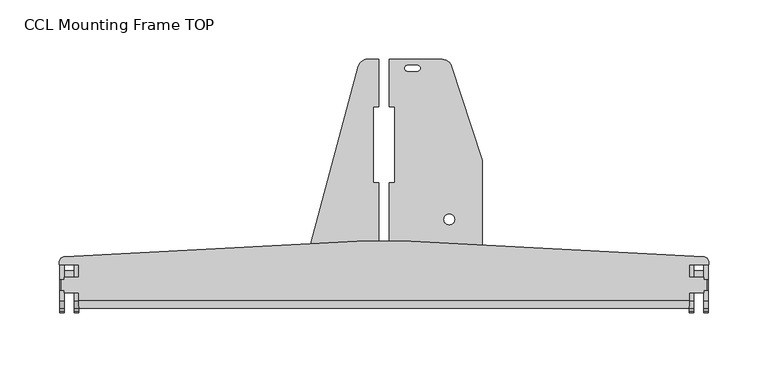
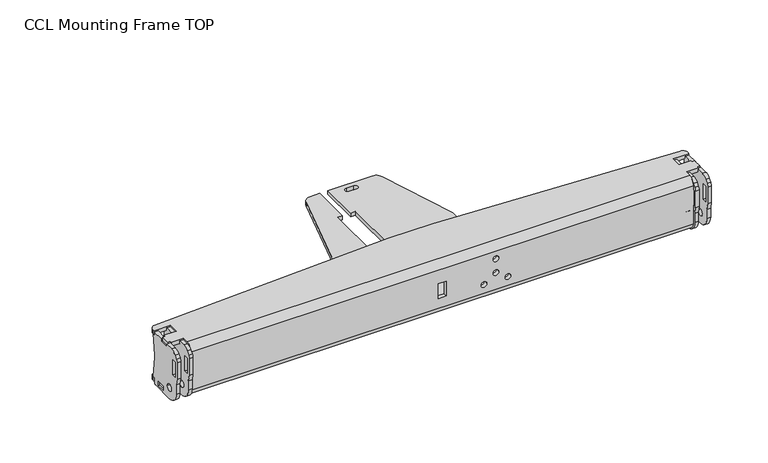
"""IFC4 building model written with IfcOpenShell, lengths in millimetres: proxy geometry, d&b CL-Series CCL Mounting Frame TOP : CCL Mounting Frame TOP."""

from ifc_helpers import new_model, si_unit, point, frame, frame_2d, origin, place, context, project, spatial, polyline, circle_curve, trimmed, segment, composite_curve, outline, extrude, faceted_brep, source, transform, mapped, element, save
from ifc_brep_helpers import plane_surface, cylinder_surface, revolved_surface, advanced_brep


def ccl_mounting_frame_top_87f3c3ac(model_context):
    return source(origin(), model_context, "Body", "SolidModel", [
        extrude(outline(composite_curve([segment(polyline([(-2.0, 9.5), (-2.0, 19.5), (-3.5, 26.5), (-3.5, 44.5)]), True, "CONTINUOUS"), segment(trimmed(circle_curve(frame_2d((1.5, 44.5)), 5.0), [point((-3.5, 44.5))], [point((-2.3302222, 47.713938))], False, "CARTESIAN"), True, "CONTINUOUS"), segment(polyline([(-2.3302222, 47.713938), (0.126966, 50.6423009)]), True, "CONTINUOUS"), segment(trimmed(circle_curve(frame_2d((6.2553215, 45.5)), 8.0), [point((0.126966, 50.6423009))], [point((6.2553215, 53.5))], False, "CARTESIAN"), True, "CONTINUOUS"), segment(polyline([(6.2553215, 53.5), (13.25, 53.5), (13.25, 50.75), (26.25, 50.75), (26.25, 53.5), (36.5, 53.5), (36.5, 50.75), (41.5, 50.75), (39.1442176, 28.3362277)]), True, "CONTINUOUS"), segment(trimmed(circle_curve(frame_2d((47.1003928, 27.5)), 8.0), [point((39.1442176, 28.3362277))], [point((39.1442176, 26.6637723))], True, "CARTESIAN"), True, "CONTINUOUS"), segment(polyline([(39.1442176, 26.6637723), (41.5, 4.25), (36.5, 4.25), (36.5, -0.5)]), True, "CONTINUOUS"), segment(trimmed(circle_curve(frame_2d((34.5, -0.5)), 2.0), [point((36.5, -0.5))], [point((34.5, -2.5))], False, "CARTESIAN"), True, "CONTINUOUS"), segment(polyline([(34.5, -2.5), (10.0, -2.5)]), True, "CONTINUOUS"), segment(trimmed(circle_curve(frame_2d((10.0, 9.5)), 12.0), [point((10.0, -2.5))], [point((-2.0, 9.5))], False, "CARTESIAN"), True, "CONTINUOUS")], self_intersect=False), holes=[polyline([(4.25, 43.25), (-0.25, 43.25), (-0.25, 26.75), (4.25, 26.75), (4.25, 43.25)]), composite_curve([segment(trimmed(circle_curve(frame_2d((10.0, 9.5)), 3.65), [point((6.35, 9.5))], [point((13.65, 9.5))], True, "CARTESIAN"), True, "CONTINUOUS"), segment(trimmed(circle_curve(frame_2d((10.0, 9.5)), 3.65), [point((13.65, 9.5))], [point((6.35, 9.5))], True, "CARTESIAN"), True, "CONTINUOUS")], self_intersect=False), polyline([(21.25, 4.25), (21.25, -0.5), (29.75, -0.5), (29.75, 4.25), (21.25, 4.25)])]), frame((-261.0, 0.0, 0.0), z_axis=(1.0, 0.0, 0.0), x_axis=(0.0, 1.0, 0.0)), (0.0, 0.0, 1.0), 3.75),
        extrude(outline(composite_curve([segment(polyline([(-2.0, 9.5), (-2.0, 19.5), (-3.5, 26.5), (-3.5, 44.5)]), True, "CONTINUOUS"), segment(trimmed(circle_curve(frame_2d((1.5, 44.5)), 5.0), [point((-3.5, 44.5))], [point((-2.3302222, 47.713938))], False, "CARTESIAN"), True, "CONTINUOUS"), segment(polyline([(-2.3302222, 47.713938), (0.126966, 50.6423009)]), True, "CONTINUOUS"), segment(trimmed(circle_curve(frame_2d((6.2553215, 45.5)), 8.0), [point((0.126966, 50.6423009))], [point((6.2553215, 53.5))], False, "CARTESIAN"), True, "CONTINUOUS"), segment(polyline([(6.2553215, 53.5), (13.25, 53.5), (13.25, 50.75), (26.25, 50.75), (26.25, 53.5), (36.5, 53.5), (36.5, 50.75), (41.5, 50.75), (39.1442176, 28.3362277)]), True, "CONTINUOUS"), segment(trimmed(circle_curve(frame_2d((47.1003928, 27.5)), 8.0), [point((39.1442176, 28.3362277))], [point((39.1442176, 26.6637723))], True, "CARTESIAN"), True, "CONTINUOUS"), segment(polyline([(39.1442176, 26.6637723), (41.5, 4.25), (36.5, 4.25), (36.5, -0.5)]), True, "CONTINUOUS"), segment(trimmed(circle_curve(frame_2d((34.5, -0.5)), 2.0), [point((36.5, -0.5))], [point((34.5, -2.5))], False, "CARTESIAN"), True, "CONTINUOUS"), segment(polyline([(34.5, -2.5), (10.0, -2.5)]), True, "CONTINUOUS"), segment(trimmed(circle_curve(frame_2d((10.0, 9.5)), 12.0), [point((10.0, -2.5))], [point((-2.0, 9.5))], False, "CARTESIAN"), True, "CONTINUOUS")], self_intersect=False), holes=[polyline([(4.25, 43.25), (-0.25, 43.25), (-0.25, 26.75), (4.25, 26.75), (4.25, 43.25)]), composite_curve([segment(trimmed(circle_curve(frame_2d((10.0, 9.5)), 3.65), [point((6.35, 9.5))], [point((13.65, 9.5))], True, "CARTESIAN"), True, "CONTINUOUS"), segment(trimmed(circle_curve(frame_2d((10.0, 9.5)), 3.65), [point((13.65, 9.5))], [point((6.35, 9.5))], True, "CARTESIAN"), True, "CONTINUOUS")], self_intersect=False), polyline([(21.25, 4.25), (21.25, -0.5), (29.75, -0.5), (29.75, 4.25), (21.25, 4.25)])]), frame((257.25, 0.0, 0.0), z_axis=(1.0, 0.0, 0.0), x_axis=(0.0, 1.0, 0.0)), (0.0, 0.0, 1.0), 3.75),
        extrude(outline(composite_curve([segment(polyline([(-2.0, 9.5), (-2.0, 19.5), (-3.5, 26.5), (-3.5, 44.5)]), True, "CONTINUOUS"), segment(trimmed(circle_curve(frame_2d((1.5, 44.5)), 5.0), [point((-3.5, 44.5))], [point((-2.3302222, 47.713938))], False, "CARTESIAN"), True, "CONTINUOUS"), segment(polyline([(-2.3302222, 47.713938), (0.126966, 50.6423009)]), True, "CONTINUOUS"), segment(trimmed(circle_curve(frame_2d((6.2553215, 45.5)), 8.0), [point((0.126966, 50.6423009))], [point((6.2553215, 53.5))], False, "CARTESIAN"), True, "CONTINUOUS"), segment(polyline([(6.2553215, 53.5), (15.0, 53.5), (15.0, 50.75), (24.5, 50.75), (24.5, 53.5), (36.5, 53.5), (36.5, 50.75), (38.5, 50.75), (36.1442176, 28.3362277)]), True, "CONTINUOUS"), segment(trimmed(circle_curve(frame_2d((44.1003928, 27.5)), 8.0), [point((36.1442176, 28.3362277))], [point((36.1442176, 26.6637723))], True, "CARTESIAN"), True, "CONTINUOUS"), segment(polyline([(36.1442176, 26.6637723), (38.5, 4.25), (36.5, 4.25), (36.5, -0.5)]), True, "CONTINUOUS"), segment(trimmed(circle_curve(frame_2d((34.5, -0.5)), 2.0), [point((36.5, -0.5))], [point((34.5, -2.5))], False, "CARTESIAN"), True, "CONTINUOUS"), segment(polyline([(34.5, -2.5), (10.0, -2.5)]), True, "CONTINUOUS"), segment(trimmed(circle_curve(frame_2d((10.0, 9.5)), 12.0), [point((10.0, -2.5))], [point((-2.0, 9.5))], False, "CARTESIAN"), True, "CONTINUOUS")], self_intersect=False), holes=[polyline([(4.25, 43.25), (-0.25, 43.25), (-0.25, 26.75), (4.25, 26.75), (4.25, 43.25)]), composite_curve([segment(trimmed(circle_curve(frame_2d((10.0, 9.5)), 3.65), [point((6.35, 9.5))], [point((13.65, 9.5))], True, "CARTESIAN"), True, "CONTINUOUS"), segment(trimmed(circle_curve(frame_2d((10.0, 9.5)), 3.65), [point((13.65, 9.5))], [point((6.35, 9.5))], True, "CARTESIAN"), True, "CONTINUOUS")], self_intersect=False), polyline([(21.25, 4.25), (21.25, -0.5), (29.75, -0.5), (29.75, 4.25), (21.25, 4.25)])]), frame((-273.5, 0.0, 0.0), z_axis=(1.0, 0.0, 0.0), x_axis=(0.0, 1.0, 0.0)), (0.0, 0.0, 1.0), 3.75),
        extrude(outline(composite_curve([segment(polyline([(-2.0, 9.5), (-2.0, 19.5), (-3.5, 26.5), (-3.5, 44.5)]), True, "CONTINUOUS"), segment(trimmed(circle_curve(frame_2d((1.5, 44.5)), 5.0), [point((-3.5, 44.5))], [point((-2.3302222, 47.713938))], False, "CARTESIAN"), True, "CONTINUOUS"), segment(polyline([(-2.3302222, 47.713938), (0.126966, 50.6423009)]), True, "CONTINUOUS"), segment(trimmed(circle_curve(frame_2d((6.2553215, 45.5)), 8.0), [point((0.126966, 50.6423009))], [point((6.2553215, 53.5))], False, "CARTESIAN"), True, "CONTINUOUS"), segment(polyline([(6.2553215, 53.5), (15.0, 53.5), (15.0, 50.75), (24.5, 50.75), (24.5, 53.5), (36.5, 53.5), (36.5, 50.75), (38.5, 50.75), (36.1442176, 28.3362277)]), True, "CONTINUOUS"), segment(trimmed(circle_curve(frame_2d((44.1003928, 27.5)), 8.0), [point((36.1442176, 28.3362277))], [point((36.1442176, 26.6637723))], True, "CARTESIAN"), True, "CONTINUOUS"), segment(polyline([(36.1442176, 26.6637723), (38.5, 4.25), (36.5, 4.25), (36.5, -0.5)]), True, "CONTINUOUS"), segment(trimmed(circle_curve(frame_2d((34.5, -0.5)), 2.0), [point((36.5, -0.5))], [point((34.5, -2.5))], False, "CARTESIAN"), True, "CONTINUOUS"), segment(polyline([(34.5, -2.5), (10.0, -2.5)]), True, "CONTINUOUS"), segment(trimmed(circle_curve(frame_2d((10.0, 9.5)), 12.0), [point((10.0, -2.5))], [point((-2.0, 9.5))], False, "CARTESIAN"), True, "CONTINUOUS")], self_intersect=False), holes=[polyline([(4.25, 43.25), (-0.25, 43.25), (-0.25, 26.75), (4.25, 26.75), (4.25, 43.25)]), composite_curve([segment(trimmed(circle_curve(frame_2d((10.0, 9.5)), 3.65), [point((6.35, 9.5))], [point((13.65, 9.5))], True, "CARTESIAN"), True, "CONTINUOUS"), segment(trimmed(circle_curve(frame_2d((10.0, 9.5)), 3.65), [point((13.65, 9.5))], [point((6.35, 9.5))], True, "CARTESIAN"), True, "CONTINUOUS")], self_intersect=False), polyline([(21.25, 4.25), (21.25, -0.5), (29.75, -0.5), (29.75, 4.25), (21.25, 4.25)])]), frame((269.75, 0.0, 0.0), z_axis=(1.0, 0.0, 0.0), x_axis=(0.0, 1.0, 0.0)), (0.0, 0.0, 1.0), 3.75),
        advanced_brep(
        [(257.25, 7.0, 55.0), (257.25, 0.0, 48.0), (257.25, 0.0, 7.0), (257.25, 7.0, 0.0), (257.25, 36.6, 0.0), (257.25, 36.6, 4.0), (257.25, 7.0, 4.0), (257.25, 4.0, 7.0), (257.25, 4.0, 48.0), (257.25, 7.0, 51.0), (257.25, 13.25, 51.0), (257.25, 13.25, 55.0), (257.25, 26.25, 51.0), (257.25, 36.6, 51.0), (257.25, 36.6, 55.0), (257.25, 26.25, 55.0), (-257.25, 7.0, 51.0), (-257.25, 4.0, 48.0), (-257.25, 4.0, 7.0), (-257.25, 7.0, 4.0), (-257.25, 36.6, 4.0), (-257.25, 36.6, 0.0), (-257.25, 7.0, 0.0), (-257.25, 0.0, 7.0), (-257.25, 0.0, 48.0), (-257.25, 7.0, 55.0), (-257.25, 13.25, 55.0), (-257.25, 13.25, 51.0), (-257.25, 26.25, 55.0), (-257.25, 36.6, 55.0), (-257.25, 36.6, 51.0), (-257.25, 26.25, 51.0), (58.0, 0.0, 39.9561632), (52.0, 0.0, 39.9561632), (45.7127193, 0.0, 16.3525166), (39.7127193, 0.0, 16.3525166), (70.2872807, 0.0, 16.3525166), (64.2872807, 0.0, 16.3525166), (58.0, 0.0, 24.9561632), (52.0, 0.0, 24.9561632), (4.25, 0.0, 33.5), (4.25, 0.0, 17.5), (-4.25, 0.0, 17.5), (-4.25, 0.0, 33.5), (-273.75, 36.6, 0.0), (-273.75, 38.6, 0.0), (-269.0116798, 43.5931477, 0.0), (-61.67706, 54.4590947, 0.0), (-21.5943708, 204.0497272, 0.0), (-13.8398243, 210.0, 0.0), (-4.25, 210.0, 0.0), (-4.25, 170.0, 0.0), (-9.25, 170.0, 0.0), (-9.25, 105.75, 0.0), (-4.25, 105.75, 0.0), (-4.25, 56.5, 0.0), (4.25, 56.5, 0.0), (4.25, 105.75, 0.0), (9.25, 105.75, 0.0), (9.25, 170.0, 0.0), (4.25, 170.0, 0.0), (4.25, 210.0, 0.0), (49.212422, 210.0, 0.0), (56.8107802, 204.5029886, 0.0), (82.5983582, 126.2192696, 0.0), (83.0, 123.716281, 0.0), (83.0, 53.3416067, 0.0), (269.0116798, 43.5931477, 0.0), (273.75, 38.6, 0.0), (273.75, 36.6, 0.0), (28.0, 205.0, 0.0), (20.0, 205.0, 0.0), (20.0, 200.0, 0.0), (28.0, 200.0, 0.0), (59.4701963, 75.0167621, 0.0), (50.5298037, 75.0167621, 0.0), (-4.25, 56.5, 4.0), (4.25, 56.5, 4.0), (273.75, 36.6, 4.0), (273.75, 38.6, 4.0), (269.0116798, 43.5931477, 4.0), (83.0, 53.3416067, 4.0), (83.0, 123.716281, 4.0), (82.5983582, 126.2192696, 4.0), (56.8107802, 204.5029886, 4.0), (49.212422, 210.0, 4.0), (4.25, 210.0, 4.0), (4.25, 170.0, 4.0), (9.25, 170.0, 4.0), (9.25, 105.75, 4.0), (4.25, 105.75, 4.0), (-4.25, 105.75, 4.0), (-9.25, 105.75, 4.0), (-9.25, 170.0, 4.0), (-4.25, 170.0, 4.0), (-4.25, 210.0, 4.0), (-13.8398243, 210.0, 4.0), (-21.5943708, 204.0497272, 4.0), (-61.67706, 54.4590947, 4.0), (-269.0116798, 43.5931477, 4.0), (-273.75, 38.6, 4.0), (-273.75, 36.6, 4.0), (28.0, 205.0, 4.0), (28.0, 200.0, 4.0), (20.0, 200.0, 4.0), (20.0, 205.0, 4.0), (59.4701963, 75.0167621, 4.0), (50.5298037, 75.0167621, 4.0), (52.0, 4.0, 39.9561632), (58.0, 4.0, 39.9561632), (39.7127193, 4.0, 16.3525166), (45.7127193, 4.0, 16.3525166), (64.2872807, 4.0, 16.3525166), (70.2872807, 4.0, 16.3525166), (52.0, 4.0, 24.9561632), (58.0, 4.0, 24.9561632), (4.25, 4.0, 17.5), (4.25, 4.0, 33.5), (-4.25, 4.0, 33.5), (-4.25, 4.0, 17.5), (-269.75, 13.25, 51.0), (-269.75, 15.25, 51.0), (-272.25, 15.25, 51.0), (-272.25, 24.25, 51.0), (-269.75, 24.25, 51.0), (-269.75, 26.25, 51.0), (-273.75, 36.6, 51.0), (-273.75, 38.8548275, 51.0), (-269.0116798, 43.5931477, 51.0), (-22.7342663, 56.5, 51.0), (22.7342663, 56.5, 51.0), (269.0116798, 43.5931477, 51.0), (273.75, 38.8548275, 51.0), (273.75, 36.6, 51.0), (269.75, 26.25, 51.0), (269.75, 24.25, 51.0), (272.25, 24.25, 51.0), (272.25, 15.25, 51.0), (269.75, 15.25, 51.0), (269.75, 13.25, 51.0), (-22.7342663, 56.5, 55.0), (22.7342663, 56.5, 55.0), (269.75, 13.25, 55.0), (269.75, 15.25, 55.0), (272.25, 15.25, 55.0), (272.25, 24.25, 55.0), (269.75, 24.25, 55.0), (269.75, 26.25, 55.0), (273.75, 36.6, 55.0), (273.75, 38.8548275, 55.0), (269.0116798, 43.5931477, 55.0), (-269.0116798, 43.5931477, 55.0), (-273.75, 38.8548275, 55.0), (-273.75, 36.6, 55.0), (-269.75, 26.25, 55.0), (-269.75, 24.25, 55.0), (-272.25, 24.25, 55.0), (-272.25, 15.25, 55.0), (-269.75, 15.25, 55.0), (-269.75, 13.25, 55.0)],
        [
            (0, 1, circle_curve(frame((257.25, 7.0, 48.0), z_axis=(1.0, 0.0, 0.0), x_axis=(0.0, 1.0, 0.0)), 7.0)),
            (1, 2),
            (2, 3, circle_curve(frame((257.25, 7.0, 7.0), z_axis=(1.0, 0.0, 0.0), x_axis=(0.0, 1.0, 0.0)), 7.0)),
            (3, 4),
            (4, 5),
            (5, 6),
            (6, 7, circle_curve(frame((257.25, 7.0, 7.0), z_axis=(-1.0, 0.0, 0.0), x_axis=(0.0, 1.0, 0.0)), 3.0)),
            (7, 8),
            (8, 9, circle_curve(frame((257.25, 7.0, 48.0), z_axis=(-1.0, 0.0, 0.0), x_axis=(0.0, 1.0, 0.0)), 3.0)),
            (9, 10),
            (10, 11),
            (11, 0),
            (12, 13),
            (13, 14),
            (14, 15),
            (15, 12),
            (16, 17, circle_curve(frame((-257.25, 7.0, 48.0), z_axis=(1.0, 0.0, 0.0), x_axis=(0.0, 1.0, 0.0)), 3.0)),
            (17, 18),
            (18, 19, circle_curve(frame((-257.25, 7.0, 7.0), z_axis=(1.0, 0.0, 0.0), x_axis=(0.0, 1.0, 0.0)), 3.0)),
            (19, 20),
            (20, 21),
            (21, 22),
            (22, 23, circle_curve(frame((-257.25, 7.0, 7.0), z_axis=(-1.0, 0.0, 0.0), x_axis=(0.0, 1.0, 0.0)), 7.0)),
            (23, 24),
            (24, 25, circle_curve(frame((-257.25, 7.0, 48.0), z_axis=(-1.0, 0.0, 0.0), x_axis=(0.0, 1.0, 0.0)), 7.0)),
            (25, 26),
            (26, 27),
            (27, 16),
            (28, 29),
            (29, 30),
            (30, 31),
            (31, 28),
            (1, 24),
            (23, 2),
            (32, 33, circle_curve(frame((55.0, 0.0, 39.9561632), z_axis=(0.0, 1.0, 0.0), x_axis=(1.0, 0.0, 0.0)), 3.0)),
            (33, 32, circle_curve(frame((55.0, 0.0, 39.9561632), z_axis=(0.0, 1.0, 0.0), x_axis=(1.0, 0.0, 0.0)), 3.0)),
            (34, 35, circle_curve(frame((42.7127193, 0.0, 16.3525166), z_axis=(0.0, 1.0, 0.0), x_axis=(1.0, 0.0, 0.0)), 3.0)),
            (35, 34, circle_curve(frame((42.7127193, 0.0, 16.3525166), z_axis=(0.0, 1.0, 0.0), x_axis=(1.0, 0.0, 0.0)), 3.0)),
            (36, 37, circle_curve(frame((67.2872807, 0.0, 16.3525166), z_axis=(0.0, 1.0, 0.0), x_axis=(1.0, 0.0, 0.0)), 3.0)),
            (37, 36, circle_curve(frame((67.2872807, 0.0, 16.3525166), z_axis=(0.0, 1.0, 0.0), x_axis=(1.0, 0.0, 0.0)), 3.0)),
            (38, 39, circle_curve(frame((55.0, 0.0, 24.9561632), z_axis=(0.0, 1.0, 0.0), x_axis=(1.0, 0.0, 0.0)), 3.0)),
            (39, 38, circle_curve(frame((55.0, 0.0, 24.9561632), z_axis=(0.0, 1.0, 0.0), x_axis=(1.0, 0.0, 0.0)), 3.0)),
            (40, 41),
            (41, 42),
            (42, 43),
            (43, 40),
            (22, 3),
            (21, 44),
            (44, 45),
            (45, 46, circle_curve(frame((-268.75, 38.6, 0.0), z_axis=(0.0, 0.0, -1.0), x_axis=(0.0, -1.0, 0.0)), 5.0)),
            (46, 47),
            (47, 48),
            (48, 49, circle_curve(frame((-13.8398243, 201.9719027, 0.0), z_axis=(0.0, 0.0, -1.0), x_axis=(-1.0, 0.0, 0.0)), 8.0280973)),
            (49, 50),
            (50, 51),
            (51, 52),
            (52, 53),
            (53, 54),
            (54, 55),
            (55, 56),
            (56, 57),
            (57, 58),
            (58, 59),
            (59, 60),
            (60, 61),
            (61, 62),
            (62, 63, circle_curve(frame((49.212422, 202.0, 0.0), z_axis=(0.0, 0.0, -1.0), x_axis=(-1.0, 0.0, 0.0)), 8.0)),
            (63, 64),
            (64, 65, circle_curve(frame((75.0, 123.716281, 0.0), z_axis=(0.0, 0.0, -1.0), x_axis=(-1.0, 0.0, 0.0)), 8.0)),
            (65, 66),
            (66, 67),
            (67, 68, circle_curve(frame((268.75, 38.6, 0.0), z_axis=(0.0, 0.0, -1.0), x_axis=(0.0, -1.0, 0.0)), 5.0)),
            (68, 69),
            (69, 4),
            (70, 71),
            (71, 72, circle_curve(frame((20.0, 202.5, 0.0), z_axis=(0.0, 0.0, 1.0), x_axis=(-1.0, 0.0, 0.0)), 2.5)),
            (72, 73),
            (73, 70, circle_curve(frame((28.0, 202.5, 0.0), z_axis=(0.0, 0.0, 1.0), x_axis=(-1.0, 0.0, 0.0)), 2.5)),
            (74, 75, circle_curve(frame((55.0, 75.0167621, 0.0), z_axis=(0.0, 0.0, 1.0), x_axis=(-1.0, 0.0, 0.0)), 4.4701963)),
            (75, 74, circle_curve(frame((55.0, 75.0167621, 0.0), z_axis=(0.0, 0.0, 1.0), x_axis=(-1.0, 0.0, 0.0)), 4.4701963)),
            (55, 76),
            (76, 77),
            (77, 56),
            (19, 6),
            (5, 78),
            (78, 79),
            (79, 80, circle_curve(frame((268.75, 38.6, 4.0), z_axis=(0.0, 0.0, 1.0), x_axis=(0.0, -1.0, 0.0)), 5.0)),
            (80, 81),
            (81, 82),
            (82, 83, circle_curve(frame((75.0, 123.716281, 4.0), z_axis=(0.0, 0.0, 1.0), x_axis=(-1.0, 0.0, 0.0)), 8.0)),
            (83, 84),
            (84, 85, circle_curve(frame((49.212422, 202.0, 4.0), z_axis=(0.0, 0.0, 1.0), x_axis=(-1.0, 0.0, 0.0)), 8.0)),
            (85, 86),
            (86, 87),
            (87, 88),
            (88, 89),
            (89, 90),
            (90, 77),
            (76, 91),
            (91, 92),
            (92, 93),
            (93, 94),
            (94, 95),
            (95, 96),
            (96, 97, circle_curve(frame((-13.8398243, 201.9719027, 4.0), z_axis=(0.0, 0.0, 1.0), x_axis=(-1.0, 0.0, 0.0)), 8.0280973)),
            (97, 98),
            (98, 99),
            (99, 100, circle_curve(frame((-268.75, 38.6, 4.0), z_axis=(0.0, 0.0, 1.0), x_axis=(0.0, -1.0, 0.0)), 5.0)),
            (100, 101),
            (101, 20),
            (102, 103, circle_curve(frame((28.0, 202.5, 4.0), z_axis=(0.0, 0.0, -1.0), x_axis=(-1.0, 0.0, 0.0)), 2.5)),
            (103, 104),
            (104, 105, circle_curve(frame((20.0, 202.5, 4.0), z_axis=(0.0, 0.0, -1.0), x_axis=(-1.0, 0.0, 0.0)), 2.5)),
            (105, 102),
            (106, 107, circle_curve(frame((55.0, 75.0167621, 4.0), z_axis=(0.0, 0.0, -1.0), x_axis=(-1.0, 0.0, 0.0)), 4.4701963)),
            (107, 106, circle_curve(frame((55.0, 75.0167621, 4.0), z_axis=(0.0, 0.0, -1.0), x_axis=(-1.0, 0.0, 0.0)), 4.4701963)),
            (18, 7),
            (17, 8),
            (108, 109, circle_curve(frame((55.0, 4.0, 39.9561632), z_axis=(0.0, -1.0, 0.0), x_axis=(1.0, 0.0, 0.0)), 3.0)),
            (109, 108, circle_curve(frame((55.0, 4.0, 39.9561632), z_axis=(0.0, -1.0, 0.0), x_axis=(1.0, 0.0, 0.0)), 3.0)),
            (110, 111, circle_curve(frame((42.7127193, 4.0, 16.3525166), z_axis=(0.0, -1.0, 0.0), x_axis=(1.0, 0.0, 0.0)), 3.0)),
            (111, 110, circle_curve(frame((42.7127193, 4.0, 16.3525166), z_axis=(0.0, -1.0, 0.0), x_axis=(1.0, 0.0, 0.0)), 3.0)),
            (112, 113, circle_curve(frame((67.2872807, 4.0, 16.3525166), z_axis=(0.0, -1.0, 0.0), x_axis=(1.0, 0.0, 0.0)), 3.0)),
            (113, 112, circle_curve(frame((67.2872807, 4.0, 16.3525166), z_axis=(0.0, -1.0, 0.0), x_axis=(1.0, 0.0, 0.0)), 3.0)),
            (114, 115, circle_curve(frame((55.0, 4.0, 24.9561632), z_axis=(0.0, -1.0, 0.0), x_axis=(1.0, 0.0, 0.0)), 3.0)),
            (115, 114, circle_curve(frame((55.0, 4.0, 24.9561632), z_axis=(0.0, -1.0, 0.0), x_axis=(1.0, 0.0, 0.0)), 3.0)),
            (116, 117),
            (117, 118),
            (118, 119),
            (119, 116),
            (16, 9),
            (27, 120),
            (120, 121),
            (121, 122),
            (122, 123),
            (123, 124),
            (124, 125),
            (125, 31),
            (30, 126),
            (126, 127),
            (127, 128, circle_curve(frame((-269.0116798, 38.8548275, 51.0), z_axis=(0.0, 0.0, -1.0), x_axis=(0.0, -1.0, 0.0)), 4.7383202)),
            (128, 129),
            (129, 130),
            (130, 131),
            (131, 132, circle_curve(frame((269.0116798, 38.8548275, 51.0), z_axis=(0.0, 0.0, -1.0), x_axis=(0.0, -1.0, 0.0)), 4.7383202)),
            (132, 133),
            (133, 13),
            (12, 134),
            (134, 135),
            (135, 136),
            (136, 137),
            (137, 138),
            (138, 139),
            (139, 10),
            (129, 140),
            (140, 141),
            (141, 130),
            (25, 0),
            (11, 142),
            (142, 143),
            (143, 144),
            (144, 145),
            (145, 146),
            (146, 147),
            (147, 15),
            (14, 148),
            (148, 149),
            (149, 150, circle_curve(frame((269.0116798, 38.8548275, 55.0), z_axis=(0.0, 0.0, 1.0), x_axis=(0.0, -1.0, 0.0)), 4.7383202)),
            (150, 141),
            (140, 151),
            (151, 152, circle_curve(frame((-269.0116798, 38.8548275, 55.0), z_axis=(0.0, 0.0, 1.0), x_axis=(0.0, -1.0, 0.0)), 4.7383202)),
            (152, 153),
            (153, 29),
            (28, 154),
            (154, 155),
            (155, 156),
            (156, 157),
            (157, 158),
            (158, 159),
            (159, 26),
            (128, 151),
            (46, 99),
            (98, 47),
            (150, 131),
            (66, 81),
            (80, 67),
            (127, 152),
            (126, 153),
            (125, 154),
            (124, 155),
            (123, 156),
            (122, 157),
            (121, 158),
            (120, 159),
            (149, 132),
            (148, 133),
            (147, 134),
            (146, 135),
            (145, 136),
            (144, 137),
            (143, 138),
            (142, 139),
            (96, 49),
            (48, 97),
            (65, 82),
            (64, 83),
            (63, 84),
            (62, 85),
            (61, 86),
            (102, 70),
            (73, 103),
            (72, 104),
            (71, 105),
            (60, 87),
            (59, 88),
            (58, 89),
            (57, 90),
            (54, 91),
            (53, 92),
            (52, 93),
            (51, 94),
            (50, 95),
            (106, 74),
            (75, 107),
            (108, 33),
            (32, 109),
            (110, 35),
            (34, 111),
            (112, 37),
            (36, 113),
            (114, 39),
            (38, 115),
            (116, 41),
            (40, 117),
            (43, 118),
            (42, 119),
            (100, 45),
            (44, 101),
            (69, 78),
            (68, 79),
        ],
        [
            plane_surface(frame((257.25, 14.0, 48.0), z_axis=(1.0, 0.0, 0.0), x_axis=(0.0, 0.0, 1.0))),
            plane_surface(frame((-257.25, 14.0, 48.0), z_axis=(-1.0, 0.0, 0.0), x_axis=(0.0, 0.0, -1.0))),
            plane_surface(frame((257.25, 0.0, 48.0), z_axis=(0.0, -1.0, 0.0), x_axis=(-1.0, 0.0, 0.0))),
            cylinder_surface(frame((-257.25, 7.0, 7.0), z_axis=(1.0, 0.0, 0.0), x_axis=(0.0, 1.0, 0.0)), 7.0),
            plane_surface(frame((257.25, 7.0, 0.0), z_axis=(0.0, 0.0, -1.0), x_axis=(-1.0, 0.0, 0.0))),
            plane_surface(frame((257.25, 56.5, 0.0), z_axis=(0.0, 1.0, 0.0), x_axis=(-1.0, 0.0, 0.0))),
            plane_surface(frame((257.25, 56.5, 4.0), z_axis=(0.0, 0.0, 1.0), x_axis=(-1.0, 0.0, 0.0))),
            revolved_surface(polyline([(-257.25, 10.0, 7.0), (257.25, 10.0, 7.0)]), (-257.25, 7.0, 7.0), (-1.0, 0.0, 0.0)),
            plane_surface(frame((257.25, 4.0, 7.0), z_axis=(0.0, 1.0, 0.0), x_axis=(-1.0, 0.0, 0.0))),
            revolved_surface(polyline([(-257.25, 10.0, 48.0), (257.25, 10.0, 48.0)]), (-257.25, 7.0, 48.0), (-1.0, 0.0, 0.0)),
            plane_surface(frame((257.25, 7.0, 51.0), z_axis=(0.0, 0.0, -1.0), x_axis=(-1.0, 0.0, 0.0))),
            plane_surface(frame((257.25, 56.5, 51.0), z_axis=(0.0, 1.0, 0.0), x_axis=(-1.0, 0.0, 0.0))),
            plane_surface(frame((257.25, 56.5, 55.0), z_axis=(0.0, 0.0, 1.0), x_axis=(-1.0, 0.0, 0.0))),
            plane_surface(frame((-273.5, 43.3579248, 100.0), z_axis=(-0.0523359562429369, 0.9986295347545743, 0.0), x_axis=(0.0, 0.0, -1.0))),
            plane_surface(frame((0.0, 57.6914524, 100.0), z_axis=(0.05233595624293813, 0.9986295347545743, 0.0), x_axis=(0.0, 0.0, -1.0))),
            cylinder_surface(frame((-257.25, 7.0, 48.0), z_axis=(1.0, 0.0, 0.0), x_axis=(0.0, 1.0, 0.0)), 7.0),
            cylinder_surface(frame((-269.0116798, 38.8548275, 51.0), z_axis=(0.0, 0.0, 1.0), x_axis=(0.0, -1.0, 0.0)), 4.7383202),
            plane_surface(frame((-273.75, 38.8548275, 55.0), z_axis=(-1.0, 0.0, 0.0), x_axis=(0.0, 0.0, -1.0))),
            plane_surface(frame((-273.75, 36.6, 55.0), z_axis=(0.0, -1.0, 0.0), x_axis=(0.0, 0.0, -1.0))),
            plane_surface(frame((-257.25, 26.25, 55.0), z_axis=(0.0, 1.0, 0.0), x_axis=(0.0, 0.0, -1.0))),
            plane_surface(frame((-269.75, 26.25, 55.0), z_axis=(-1.0, 0.0, 0.0), x_axis=(0.0, 0.0, -1.0))),
            plane_surface(frame((-269.75, 24.25, 55.0), z_axis=(0.0, 1.0, 0.0), x_axis=(0.0, 0.0, -1.0))),
            plane_surface(frame((-272.25, 24.25, 55.0), z_axis=(-1.0, 0.0, 0.0), x_axis=(0.0, 0.0, -1.0))),
            plane_surface(frame((-272.25, 15.25, 55.0), z_axis=(0.0, -1.0, 0.0), x_axis=(0.0, 0.0, -1.0))),
            plane_surface(frame((-269.75, 15.25, 55.0), z_axis=(-1.0, 0.0, 0.0), x_axis=(0.0, 0.0, -1.0))),
            plane_surface(frame((-269.75, 13.25, 55.0), z_axis=(0.0, -1.0, 0.0), x_axis=(0.0, 0.0, -1.0))),
            cylinder_surface(frame((269.0116798, 38.8548275, 51.0), z_axis=(0.0, 0.0, 1.0), x_axis=(0.0, -1.0, 0.0)), 4.7383202),
            plane_surface(frame((273.75, 36.6, 55.0), z_axis=(1.0, 0.0, 0.0), x_axis=(0.0, 0.0, -1.0))),
            plane_surface(frame((257.25, 36.6, 55.0), z_axis=(0.0, -1.0, 0.0), x_axis=(0.0, 0.0, -1.0))),
            plane_surface(frame((269.75, 26.25, 55.0), z_axis=(0.0, 1.0, 0.0), x_axis=(0.0, 0.0, -1.0))),
            plane_surface(frame((269.75, 24.25, 55.0), z_axis=(1.0, 0.0, 0.0), x_axis=(0.0, 0.0, -1.0))),
            plane_surface(frame((272.25, 24.25, 55.0), z_axis=(0.0, 1.0, 0.0), x_axis=(0.0, 0.0, -1.0))),
            plane_surface(frame((272.25, 15.25, 55.0), z_axis=(1.0, 0.0, 0.0), x_axis=(0.0, 0.0, -1.0))),
            plane_surface(frame((269.75, 15.25, 55.0), z_axis=(0.0, -1.0, 0.0), x_axis=(0.0, 0.0, -1.0))),
            plane_surface(frame((269.75, 13.25, 55.0), z_axis=(1.0, 0.0, 0.0), x_axis=(0.0, 0.0, -1.0))),
            plane_surface(frame((257.25, 13.25, 55.0), z_axis=(0.0, -1.0, 0.0), x_axis=(0.0, 0.0, -1.0))),
            cylinder_surface(frame((-13.8398243, 201.9719027, 24.9561632), z_axis=(0.0, 0.0, 1.0), x_axis=(-1.0, 0.0, 0.0)), 8.0280973),
            plane_surface(frame((-21.5943708, 204.0497272, 4.0), z_axis=(-0.9659258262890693, 0.2588190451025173, 0.0), x_axis=(0.0, 0.0, -1.0))),
            plane_surface(frame((83.0, 53.3416067, 4.0), z_axis=(1.0, 0.0, 0.0), x_axis=(0.0, 0.0, -1.0))),
            cylinder_surface(frame((75.0, 123.716281, 0.0), z_axis=(0.0, 0.0, 1.0), x_axis=(-1.0, 0.0, 0.0)), 8.0),
            plane_surface(frame((82.5983582, 126.2192696, 4.0), z_axis=(0.9497947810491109, 0.31287357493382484, 0.0), x_axis=(0.0, 0.0, -1.0))),
            cylinder_surface(frame((49.212422, 202.0, 0.0), z_axis=(0.0, 0.0, 1.0), x_axis=(-1.0, 0.0, 0.0)), 8.0),
            plane_surface(frame((49.212422, 210.0, 4.0), z_axis=(0.0, 1.0, 0.0), x_axis=(0.0, 0.0, -1.0))),
            revolved_surface(polyline([(25.5, 202.5, 0.0), (25.5, 202.5, 4.0)]), (28.0, 202.5, 24.9561632), (0.0, 0.0, -1.0)),
            plane_surface(frame((28.0, 200.0, 4.0), z_axis=(0.0, 1.0, 0.0), x_axis=(0.0, 0.0, -1.0))),
            revolved_surface(polyline([(17.5, 202.5, 0.0), (17.5, 202.5, 4.0)]), (20.0, 202.5, 24.9561632), (0.0, 0.0, -1.0)),
            plane_surface(frame((20.0, 205.0, 4.0), z_axis=(0.0, -1.0, 0.0), x_axis=(0.0, 0.0, -1.0))),
            plane_surface(frame((4.25, 210.0, 4.0), z_axis=(-1.0, 0.0, 0.0), x_axis=(0.0, 0.0, -1.0))),
            plane_surface(frame((4.25, 170.0, 4.0), z_axis=(0.0, -1.0, 0.0), x_axis=(0.0, 0.0, -1.0))),
            plane_surface(frame((9.25, 170.0, 4.0), z_axis=(-1.0, 0.0, 0.0), x_axis=(0.0, 0.0, -1.0))),
            plane_surface(frame((9.25, 105.75, 4.0), z_axis=(0.0, 1.0, 0.0), x_axis=(0.0, 0.0, -1.0))),
            plane_surface(frame((4.25, 105.75, 4.0), z_axis=(-1.0, 0.0, 0.0), x_axis=(0.0, 0.0, -1.0))),
            plane_surface(frame((-4.25, 56.5, 4.0), z_axis=(1.0, 0.0, 0.0), x_axis=(0.0, 0.0, -1.0))),
            plane_surface(frame((-4.25, 105.75, 4.0), z_axis=(0.0, 1.0, 0.0), x_axis=(0.0, 0.0, -1.0))),
            plane_surface(frame((-9.25, 105.75, 4.0), z_axis=(1.0, 0.0, 0.0), x_axis=(0.0, 0.0, -1.0))),
            plane_surface(frame((-9.25, 170.0, 4.0), z_axis=(0.0, -1.0, 0.0), x_axis=(0.0, 0.0, -1.0))),
            plane_surface(frame((-4.25, 170.0, 4.0), z_axis=(1.0, 0.0, 0.0), x_axis=(0.0, 0.0, -1.0))),
            plane_surface(frame((-4.25, 210.0, 4.0), z_axis=(0.0, 1.0, 0.0), x_axis=(0.0, 0.0, -1.0))),
            revolved_surface(polyline([(50.5298037, 75.0167621, 0.0), (50.5298037, 75.0167621, 4.0)]), (55.0, 75.0167621, 24.9561632), (0.0, 0.0, -1.0)),
            revolved_surface(polyline([(58.0, 0.0, 39.9561632), (58.0, 4.0, 39.9561632)]), (55.0, 20.0, 39.9561632), (0.0, -1.0, 0.0)),
            revolved_surface(polyline([(45.7127193, 0.0, 16.3525166), (45.7127193, 4.0, 16.3525166)]), (42.7127193, 0.0, 16.3525166), (0.0, -1.0, 0.0)),
            revolved_surface(polyline([(70.2872807, 0.0, 16.3525166), (70.2872807, 4.0, 16.3525166)]), (67.2872807, 0.0, 16.3525166), (0.0, -1.0, 0.0)),
            revolved_surface(polyline([(58.0, 0.0, 24.9561632), (58.0, 4.0, 24.9561632)]), (55.0, 0.0, 24.9561632), (0.0, -1.0, 0.0)),
            plane_surface(frame((4.25, 0.0, 17.5), z_axis=(-1.0, 0.0, 0.0), x_axis=(0.0, 1.0, 0.0))),
            plane_surface(frame((4.25, 0.0, 33.5), z_axis=(0.0, 0.0, -1.0), x_axis=(0.0, 1.0, 0.0))),
            plane_surface(frame((-4.25, 0.0, 33.5), z_axis=(1.0, 0.0, 0.0), x_axis=(0.0, 1.0, 0.0))),
            plane_surface(frame((-4.25, 0.0, 17.5), z_axis=(0.0, 0.0, 1.0), x_axis=(0.0, 1.0, 0.0))),
            plane_surface(frame((-273.75, 38.6, 4.0), z_axis=(-1.0, 0.0, 0.0), x_axis=(0.0, 0.0, -1.0))),
            plane_surface(frame((-273.75, 36.6, 4.0), z_axis=(0.0, -1.0, 0.0), x_axis=(0.0, 0.0, -1.0))),
            cylinder_surface(frame((-268.75, 38.6, 0.0), z_axis=(0.0, 0.0, 1.0), x_axis=(0.0, -1.0, 0.0)), 5.0),
            plane_surface(frame((257.25, 36.6, 4.0), z_axis=(0.0, -1.0, 0.0), x_axis=(0.0, 0.0, -1.0))),
            plane_surface(frame((273.75, 36.6, 4.0), z_axis=(1.0, 0.0, 0.0), x_axis=(0.0, 0.0, -1.0))),
            cylinder_surface(frame((268.75, 38.6, 10.0), z_axis=(0.0, 0.0, 1.0), x_axis=(0.0, -1.0, 0.0)), 5.0),
        ],
        [
            (0, [[1, 2, 3, 4, 5, 6, 7, 8, 9, 10, 11, 12]]),
            (0, [[13, 14, 15, 16]]),
            (1, [[17, 18, 19, 20, 21, 22, 23, 24, 25, 26, 27, 28]]),
            (1, [[29, 30, 31, 32]]),
            (2, [[-2, 33, -24, 34], [35, 36], [37, 38], [39, 40], [41, 42], [43, 44, 45, 46]]),
            (3, [[-3, -34, -23, 47]]),
            (4, [[-47, -22, 48, 49, 50, 51, 52, 53, 54, 55, 56, 57, 58, 59, 60, 61, 62, 63, 64, 65, 66, 67, 68, 69, 70, 71, 72, 73, 74, -4], [75, 76, 77, 78], [79, 80]]),
            (5, [[-60, 81, 82, 83]]),
            (6, [[84, -6, 85, 86, 87, 88, 89, 90, 91, 92, 93, 94, 95, 96, 97, 98, -82, 99, 100, 101, 102, 103, 104, 105, 106, 107, 108, 109, 110, -20], [111, 112, 113, 114], [115, 116]]),
            (7, [[-7, -84, -19, 117]]),
            (8, [[-8, -117, -18, 118], [119, 120], [121, 122], [123, 124], [125, 126], [127, 128, 129, 130]]),
            (9, [[-9, -118, -17, 131]]),
            (10, [[-131, -28, 132, 133, 134, 135, 136, 137, 138, -31, 139, 140, 141, 142, 143, 144, 145, 146, 147, -13, 148, 149, 150, 151, 152, 153, 154, -10]]),
            (11, [[-143, 155, 156, 157]]),
            (12, [[158, -12, 159, 160, 161, 162, 163, 164, 165, -15, 166, 167, 168, 169, -156, 170, 171, 172, 173, -29, 174, 175, 176, 177, 178, 179, 180, -26]]),
            (13, [[-155, -142, 181, -170]]),
            (13, [[-51, 182, -107, 183]]),
            (14, [[-157, -169, 184, -144]]),
            (14, [[-71, 185, -88, 186]]),
            (15, [[-1, -158, -25, -33]]),
            (16, [[-171, -181, -141, 187]]),
            (17, [[-172, -187, -140, 188]]),
            (18, [[-173, -188, -139, -30]]),
            (19, [[-174, -32, -138, 189]]),
            (20, [[-175, -189, -137, 190]]),
            (21, [[-176, -190, -136, 191]]),
            (22, [[-177, -191, -135, 192]]),
            (23, [[-178, -192, -134, 193]]),
            (24, [[-179, -193, -133, 194]]),
            (25, [[-180, -194, -132, -27]]),
            (26, [[-168, 195, -145, -184]]),
            (27, [[-167, 196, -146, -195]]),
            (28, [[-166, -14, -147, -196]]),
            (29, [[-165, 197, -148, -16]]),
            (30, [[-164, 198, -149, -197]]),
            (31, [[-163, 199, -150, -198]]),
            (32, [[-162, 200, -151, -199]]),
            (33, [[-161, 201, -152, -200]]),
            (34, [[-160, 202, -153, -201]]),
            (35, [[-159, -11, -154, -202]]),
            (36, [[-105, 203, -53, 204]]),
            (37, [[-106, -204, -52, -183]]),
            (38, [[-89, -185, -70, 205]]),
            (39, [[-90, -205, -69, 206]]),
            (40, [[-91, -206, -68, 207]]),
            (41, [[-92, -207, -67, 208]]),
            (42, [[-93, -208, -66, 209]]),
            (43, [[-111, 210, -78, 211]]),
            (44, [[-112, -211, -77, 212]]),
            (45, [[-113, -212, -76, 213]]),
            (46, [[-114, -213, -75, -210]]),
            (47, [[-94, -209, -65, 214]]),
            (48, [[-95, -214, -64, 215]]),
            (49, [[-96, -215, -63, 216]]),
            (50, [[-97, -216, -62, 217]]),
            (51, [[-98, -217, -61, -83]]),
            (52, [[-99, -81, -59, 218]]),
            (53, [[-100, -218, -58, 219]]),
            (54, [[-101, -219, -57, 220]]),
            (55, [[-102, -220, -56, 221]]),
            (56, [[-103, -221, -55, 222]]),
            (57, [[-104, -222, -54, -203]]),
            (58, [[-115, 223, -80, 224]]),
            (58, [[-116, -224, -79, -223]]),
            (59, [[225, -35, 226, -119]]),
            (59, [[-225, -120, -226, -36]]),
            (60, [[227, -37, 228, -121]]),
            (60, [[-227, -122, -228, -38]]),
            (61, [[229, -39, 230, -123]]),
            (61, [[-229, -124, -230, -40]]),
            (62, [[231, -41, 232, -125]]),
            (62, [[-231, -126, -232, -42]]),
            (63, [[233, -43, 234, -127]]),
            (64, [[-234, -46, 235, -128]]),
            (65, [[-235, -45, 236, -129]]),
            (66, [[-233, -130, -236, -44]]),
            (67, [[-109, 237, -49, 238]]),
            (68, [[-110, -238, -48, -21]]),
            (69, [[-108, -182, -50, -237]]),
            (70, [[-85, -5, -74, 239]]),
            (71, [[-86, -239, -73, 240]]),
            (72, [[-87, -240, -72, -186]]),
        ],
    ),
        faceted_brep([(-261.0, 31.75, 0.0), (-261.0, 18.7407468, 0.0), (-269.75, 18.7407468, 0.0), (-269.75, 21.25, 0.0), (-272.25, 21.25, 0.0), (-272.25, 29.75, 0.0), (-269.75, 29.75, 0.0), (-269.75, 31.75, 0.0), (-261.0, 31.75, 4.0), (-269.75, 31.75, 4.0), (-269.75, 29.75, 4.0), (-272.25, 29.75, 4.0), (-272.25, 21.25, 4.0), (-269.75, 21.25, 4.0), (-269.75, 18.7407468, 4.0), (-261.0, 18.7407468, 4.0)], [[[0, 1, 2, 3, 4, 5, 6, 7]], [[8, 9, 10, 11, 12, 13, 14, 15]], [[9, 8, 0, 7]], [[10, 9, 7, 6]], [[11, 10, 6, 5]], [[12, 11, 5, 4]], [[13, 12, 4, 3]], [[14, 13, 3, 2]], [[15, 14, 2, 1]], [[8, 15, 1, 0]]]),
        faceted_brep([(261.0, 31.75, 0.0), (269.75, 31.75, 0.0), (269.75, 29.75, 0.0), (272.25, 29.75, 0.0), (272.25, 21.25, 0.0), (269.75, 21.25, 0.0), (269.75, 18.7407468, 0.0), (261.0, 18.7407468, 0.0), (261.0, 31.75, 4.0), (261.0, 18.7407468, 4.0), (269.75, 18.7407468, 4.0), (269.75, 21.25, 4.0), (272.25, 21.25, 4.0), (272.25, 29.75, 4.0), (269.75, 29.75, 4.0), (269.75, 31.75, 4.0)], [[[0, 1, 2, 3, 4, 5, 6, 7]], [[8, 9, 10, 11, 12, 13, 14, 15]], [[9, 8, 0, 7]], [[10, 9, 7, 6]], [[11, 10, 6, 5]], [[12, 11, 5, 4]], [[13, 12, 4, 3]], [[14, 13, 3, 2]], [[15, 14, 2, 1]], [[8, 15, 1, 0]]]),
    ])


if __name__ == "__main__":
    model = new_model("IFC4")
    model_context = context("Model", 3, world=origin())
    ifc_project = project(units=[si_unit("LENGTHUNIT", "METRE", prefix="MILLI")], contexts=[model_context])
    site = spatial("IfcSite", under=ifc_project)
    building = spatial("IfcBuilding", under=site)
    placement = place(None, origin())
    ccl_mounting_frame_top_shape = ccl_mounting_frame_top_87f3c3ac(model_context)
    element("IfcBuildingElementProxy", 1, Name="d&b CL-Series CCL Mounting Frame TOP : CCL Mounting Frame TOP", ObjectType="d&b CL-Series CCL Mounting Frame TOP : CCL Mounting Frame TOP", at=placement, inside=building, context=model_context, shape_type="MappedRepresentation", body=[
        mapped(ccl_mounting_frame_top_shape, transform((0.0, 0.0, 0.0), x_axis=(1.0, 0.0, 0.0), y_axis=(0.0, 1.0, 0.0), z_axis=(0.0, 0.0, 1.0))),
    ])
    save(model, "model.ifc")
